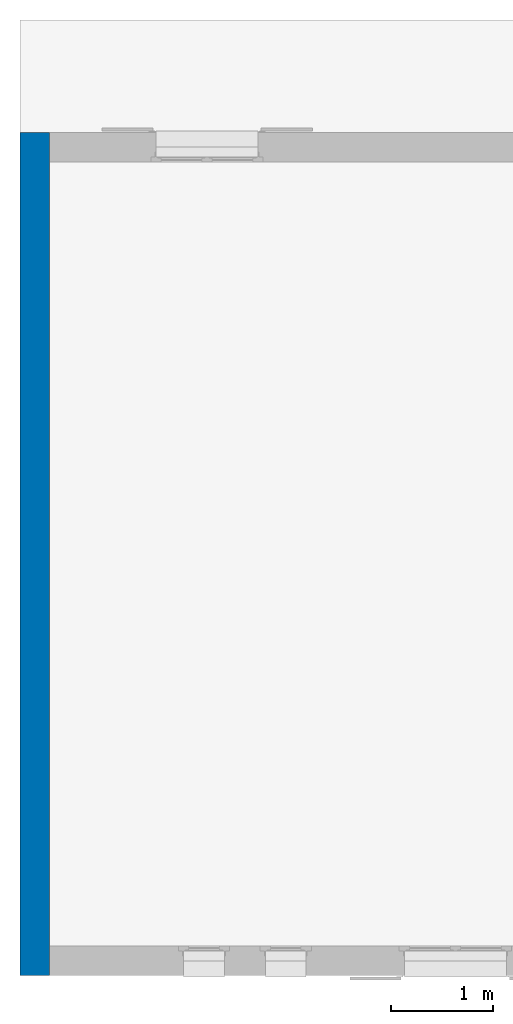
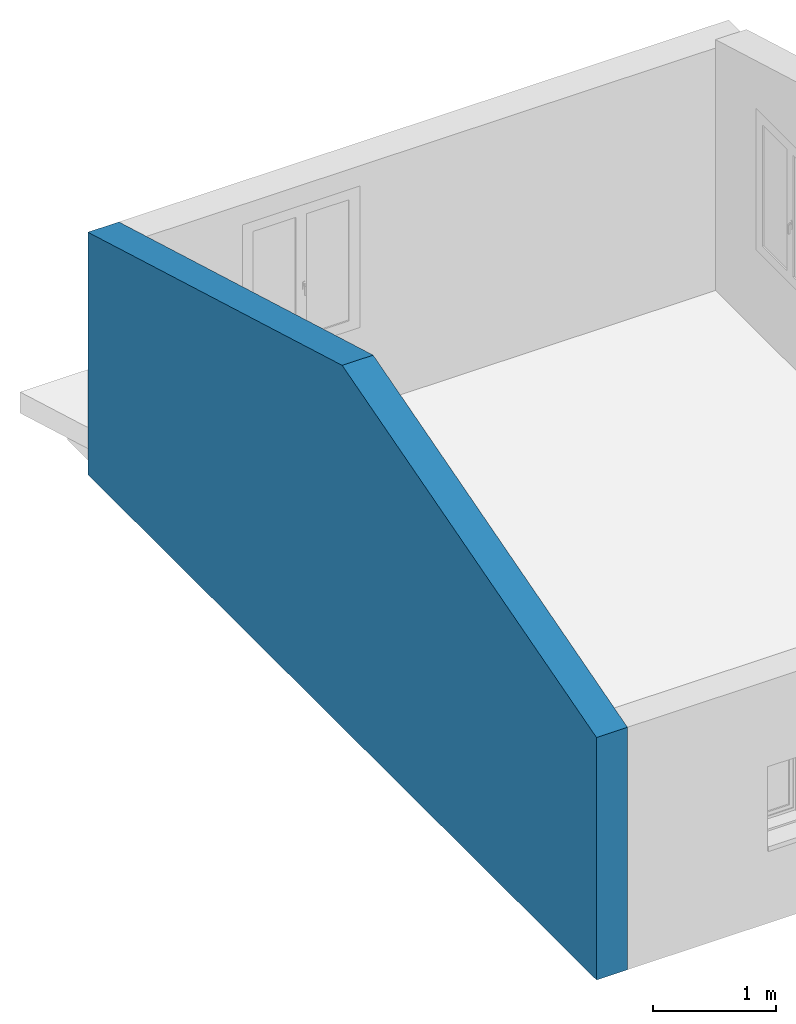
# One storey, part 4 of 6: 1 wall.
"""IFC2X3 building model written with IfcOpenShell, lengths in metres."""

from ifc_helpers import new_model, entity, si_unit, converted_unit, derived_unit, direction, frame, frame_2d, origin, place, context, subcontext, project, spatial, polyline, rectangle, extrude, clip, bounded_halfspace, material, layer, layer_set, layer_usage, type_object, element, save


model = new_model("IFC2X3")

# Units and contexts
model_context = context("Model", 3, precision=1e-05, world=origin(), true_north=direction((6.12303176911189e-17, 1.0)))
context_of_model = context(None, 3, precision=1e-05, world=origin(), true_north=direction((6.12303176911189e-17, 1.0)))
body_context = subcontext(model_context, "Body", "Model", "MODEL_VIEW")
ifc_project = project(units=[si_unit("LENGTHUNIT", "METRE"), si_unit("AREAUNIT", "SQUARE_METRE"), si_unit("VOLUMEUNIT", "CUBIC_METRE"), converted_unit("PLANEANGLEUNIT", "DEGREE", entity("IfcRatioMeasure", 0.0174532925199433), si_unit("PLANEANGLEUNIT", "RADIAN"), dimensions=[0, 0, 0, 0, 0, 0, 0]), si_unit("MASSUNIT", "GRAM", prefix="KILO"), si_unit("TIMEUNIT", "SECOND"), si_unit("FREQUENCYUNIT", "HERTZ"), si_unit("THERMODYNAMICTEMPERATUREUNIT", "DEGREE_CELSIUS"), derived_unit("THERMALTRANSMITTANCEUNIT", [(si_unit("MASSUNIT", "GRAM", prefix="KILO"), 1), (si_unit("THERMODYNAMICTEMPERATUREUNIT", "KELVIN"), -1), (si_unit("TIMEUNIT", "SECOND"), -3)]), derived_unit("VOLUMETRICFLOWRATEUNIT", [(si_unit("LENGTHUNIT", "METRE"), 3), (si_unit("TIMEUNIT", "SECOND"), -1)]), si_unit("ELECTRICCURRENTUNIT", "AMPERE"), si_unit("ELECTRICVOLTAGEUNIT", "VOLT"), si_unit("POWERUNIT", "WATT"), si_unit("FORCEUNIT", "NEWTON", prefix="KILO"), si_unit("ILLUMINANCEUNIT", "LUX"), si_unit("LUMINOUSFLUXUNIT", "LUMEN"), si_unit("LUMINOUSINTENSITYUNIT", "CANDELA"), si_unit("PRESSUREUNIT", "PASCAL")], contexts=[model_context, context_of_model])

# Site, building, storey
site_placement = place(None, origin())
site = spatial("IfcSite", under=ifc_project, at=site_placement, Name="Surface", CompositionType="ELEMENT")
building_placement = place(site_placement, origin())
building = spatial("IfcBuilding", under=site, at=building_placement, CompositionType="ELEMENT")
storey_placement = place(building_placement, frame((0.0, 0.0, 2.64)))
storey = spatial("IfcBuildingStorey", under=building, at=storey_placement, Name="Niveau 1", CompositionType="ELEMENT", Elevation=2.64)

# Wall
ifc_material_1 = material(Name="Maçonnerie - Enduit")
ifc_layer_1 = layer(ifc_material_1, 0.01)
ifc_material_2 = material(Name="Eléments de maçonnerie en béton")
ifc_layer_2 = layer(ifc_material_2, 0.2)
ifc_material_3 = material(Name="Maçonnerie - Isolant")
ifc_layer_3 = layer(ifc_material_3, 0.08)
ifc_layer_set = layer_set([ifc_layer_1, ifc_layer_2, ifc_layer_3], Name="Mur de base:Ext. Parpaing 20 + Isolant 8")
ifc_layer_usage = layer_usage(ifc_layer_set, "AXIS2", "NEGATIVE", 0.145)
wall_type = type_object("IfcWallType", Name="Mur de base:Ext. Parpaing 20 + Isolant 8", PredefinedType="STANDARD", material=ifc_layer_set)
wall_placement = place(storey_placement, frame((-8.65409160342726, -7.35858265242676, 0.0), z_axis=(0.0, 0.0, 1.0), x_axis=(0.0, 1.0, 0.0)))
element("IfcWallStandardCase", 1, at=wall_placement, inside=storey, type_object=wall_type, material=ifc_layer_usage, Name="Mur de base:Ext. Parpaing 20 + Isolant 8", ObjectType="Mur de base:Ext. Parpaing 20 + Isolant 8", context=body_context, shape_type="Clipping", body=[
    clip(clip(extrude(rectangle(XDim=8.25000000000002, YDim=0.289999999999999, at=frame_2d((4.12500000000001, -1.94289029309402e-16), x_axis=(-1.0, 0.0))), origin(), (0.0, 0.0, 1.0), 3.58282471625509), bounded_halfspace(frame((4.125, -0.145000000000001, 3.58282471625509), z_axis=(0.275637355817, 0.0, 0.961261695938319), x_axis=(0.0, 1.0, 0.0)), False, frame((4.125, -0.145000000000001, 3.58282471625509)), polyline([(0.0, 0.0), (4.12500000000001, 0.0), (4.12500000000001, 0.289999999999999), (0.0, 0.29), (0.0, 0.0)]))), bounded_halfspace(frame((0.0, -0.145000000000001, 2.4), z_axis=(-0.275637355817, 0.0, 0.961261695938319), x_axis=(0.0, -1.0, 0.0)), False, frame((0.0, -0.145000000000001, 2.4)), polyline([(0.0, 0.0), (4.125, 0.0), (4.12500000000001, 0.289999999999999), (0.0, 0.29), (0.0, 0.0)]))),
])

save(model, "model.ifc")
